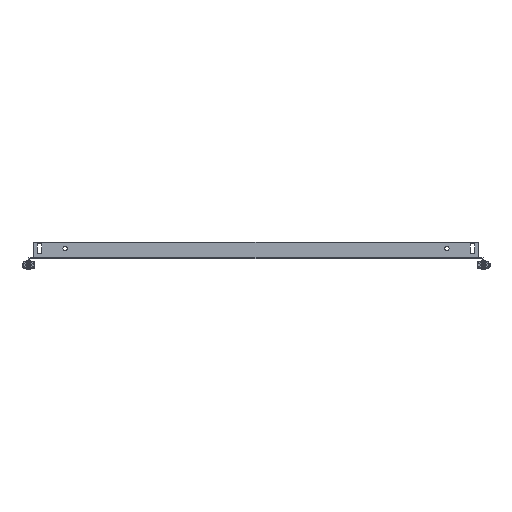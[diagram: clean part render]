
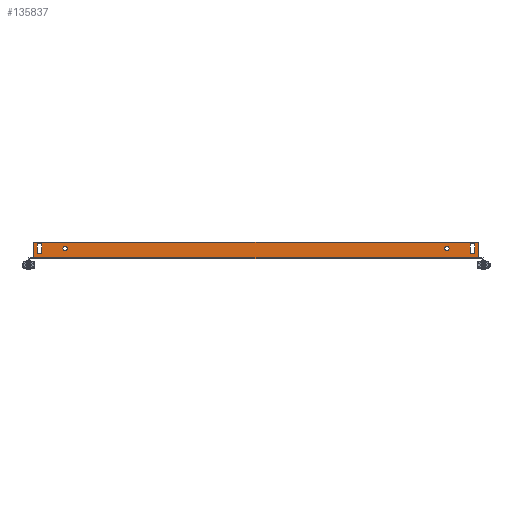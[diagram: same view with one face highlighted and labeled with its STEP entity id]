
A CAD part, front view. The second image highlights one B-rep face of the part: STEP entity #135837.
In plain terms, the highlighted planar face has unit normal (0, -1, 0).
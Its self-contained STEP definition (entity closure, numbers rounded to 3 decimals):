
#124078 = VERTEX_POINT('',#124079);
#124079 = CARTESIAN_POINT('',(342.,-384.5,0.));
#124085 = EDGE_CURVE('',#124086,#124078,#124088,.T.);
#124086 = VERTEX_POINT('',#124087);
#124087 = CARTESIAN_POINT('',(-342.,-384.5,0.));
#124088 = LINE('',#124089,#124090);
#124089 = CARTESIAN_POINT('',(-342.,-384.5,0.));
#124090 = VECTOR('',#124091,1.);
#124091 = DIRECTION('',(1.,-0.,-0.));
#135716 = VERTEX_POINT('',#135717);
#135717 = CARTESIAN_POINT('',(-342.,-384.5,2.6));
#135732 = EDGE_CURVE('',#135716,#124086,#135733,.T.);
#135733 = LINE('',#135734,#135735);
#135734 = CARTESIAN_POINT('',(-342.,-384.5,2.6));
#135735 = VECTOR('',#135736,1.);
#135736 = DIRECTION('',(0.,0.,-1.));
#135756 = VERTEX_POINT('',#135757);
#135757 = CARTESIAN_POINT('',(342.,-384.5,2.6));
#135763 = EDGE_CURVE('',#135756,#124078,#135764,.T.);
#135764 = LINE('',#135765,#135766);
#135765 = CARTESIAN_POINT('',(342.,-384.5,2.));
#135766 = VECTOR('',#135767,1.);
#135767 = DIRECTION('',(-0.,0.,-1.));
#135789 = VERTEX_POINT('',#135790);
#135790 = CARTESIAN_POINT('',(342.,-384.5,26.));
#135796 = EDGE_CURVE('',#135756,#135789,#135797,.T.);
#135797 = LINE('',#135798,#135799);
#135798 = CARTESIAN_POINT('',(342.,-384.5,26.));
#135799 = VECTOR('',#135800,1.);
#135800 = DIRECTION('',(-0.,0.,1.));
#135811 = EDGE_CURVE('',#135812,#135716,#135814,.T.);
#135812 = VERTEX_POINT('',#135813);
#135813 = CARTESIAN_POINT('',(-342.,-384.5,26.));
#135814 = LINE('',#135815,#135816);
#135815 = CARTESIAN_POINT('',(-342.,-384.5,2.));
#135816 = VECTOR('',#135817,1.);
#135817 = DIRECTION('',(-0.,0.,-1.));
#135837 = ADVANCED_FACE('',(#135838,#135872,#135883,#135894,#135928),
  #135941,.F.);
#135838 = FACE_BOUND('',#135839,.T.);
#135839 = EDGE_LOOP('',(#135840,#135850,#135858,#135866));
#135840 = ORIENTED_EDGE('',*,*,#135841,.F.);
#135841 = EDGE_CURVE('',#135842,#135844,#135846,.T.);
#135842 = VERTEX_POINT('',#135843);
#135843 = CARTESIAN_POINT('',(336.5,-384.5,9.));
#135844 = VERTEX_POINT('',#135845);
#135845 = CARTESIAN_POINT('',(336.5,-384.5,23.));
#135846 = LINE('',#135847,#135848);
#135847 = CARTESIAN_POINT('',(336.5,-384.5,23.));
#135848 = VECTOR('',#135849,1.);
#135849 = DIRECTION('',(-0.,-0.,1.));
#135850 = ORIENTED_EDGE('',*,*,#135851,.F.);
#135851 = EDGE_CURVE('',#135852,#135842,#135854,.T.);
#135852 = VERTEX_POINT('',#135853);
#135853 = CARTESIAN_POINT('',(329.5,-384.5,9.));
#135854 = LINE('',#135855,#135856);
#135855 = CARTESIAN_POINT('',(336.5,-384.5,9.));
#135856 = VECTOR('',#135857,1.);
#135857 = DIRECTION('',(1.,-0.,-0.));
#135858 = ORIENTED_EDGE('',*,*,#135859,.F.);
#135859 = EDGE_CURVE('',#135860,#135852,#135862,.T.);
#135860 = VERTEX_POINT('',#135861);
#135861 = CARTESIAN_POINT('',(329.5,-384.5,23.));
#135862 = LINE('',#135863,#135864);
#135863 = CARTESIAN_POINT('',(329.5,-384.5,9.));
#135864 = VECTOR('',#135865,1.);
#135865 = DIRECTION('',(0.,-0.,-1.));
#135866 = ORIENTED_EDGE('',*,*,#135867,.F.);
#135867 = EDGE_CURVE('',#135844,#135860,#135868,.T.);
#135868 = LINE('',#135869,#135870);
#135869 = CARTESIAN_POINT('',(329.5,-384.5,23.));
#135870 = VECTOR('',#135871,1.);
#135871 = DIRECTION('',(-1.,-0.,-0.));
#135872 = FACE_BOUND('',#135873,.T.);
#135873 = EDGE_LOOP('',(#135874));
#135874 = ORIENTED_EDGE('',*,*,#135875,.F.);
#135875 = EDGE_CURVE('',#135876,#135876,#135878,.T.);
#135876 = VERTEX_POINT('',#135877);
#135877 = CARTESIAN_POINT('',(293.5,-384.5,19.5));
#135878 = CIRCLE('',#135879,3.5);
#135879 = AXIS2_PLACEMENT_3D('',#135880,#135881,#135882);
#135880 = CARTESIAN_POINT('',(293.5,-384.5,16.));
#135881 = DIRECTION('',(0.,-1.,0.));
#135882 = DIRECTION('',(0.,0.,1.));
#135883 = FACE_BOUND('',#135884,.T.);
#135884 = EDGE_LOOP('',(#135885));
#135885 = ORIENTED_EDGE('',*,*,#135886,.F.);
#135886 = EDGE_CURVE('',#135887,#135887,#135889,.T.);
#135887 = VERTEX_POINT('',#135888);
#135888 = CARTESIAN_POINT('',(-293.5,-384.5,12.5));
#135889 = CIRCLE('',#135890,3.5);
#135890 = AXIS2_PLACEMENT_3D('',#135891,#135892,#135893);
#135891 = CARTESIAN_POINT('',(-293.5,-384.5,16.));
#135892 = DIRECTION('',(0.,-1.,0.));
#135893 = DIRECTION('',(0.,0.,-1.));
#135894 = FACE_BOUND('',#135895,.T.);
#135895 = EDGE_LOOP('',(#135896,#135906,#135914,#135922));
#135896 = ORIENTED_EDGE('',*,*,#135897,.F.);
#135897 = EDGE_CURVE('',#135898,#135900,#135902,.T.);
#135898 = VERTEX_POINT('',#135899);
#135899 = CARTESIAN_POINT('',(-336.5,-384.5,23.));
#135900 = VERTEX_POINT('',#135901);
#135901 = CARTESIAN_POINT('',(-336.5,-384.5,9.));
#135902 = LINE('',#135903,#135904);
#135903 = CARTESIAN_POINT('',(-336.5,-384.5,9.));
#135904 = VECTOR('',#135905,1.);
#135905 = DIRECTION('',(-0.,-0.,-1.));
#135906 = ORIENTED_EDGE('',*,*,#135907,.F.);
#135907 = EDGE_CURVE('',#135908,#135898,#135910,.T.);
#135908 = VERTEX_POINT('',#135909);
#135909 = CARTESIAN_POINT('',(-329.5,-384.5,23.));
#135910 = LINE('',#135911,#135912);
#135911 = CARTESIAN_POINT('',(-336.5,-384.5,23.));
#135912 = VECTOR('',#135913,1.);
#135913 = DIRECTION('',(-1.,-0.,-0.));
#135914 = ORIENTED_EDGE('',*,*,#135915,.F.);
#135915 = EDGE_CURVE('',#135916,#135908,#135918,.T.);
#135916 = VERTEX_POINT('',#135917);
#135917 = CARTESIAN_POINT('',(-329.5,-384.5,9.));
#135918 = LINE('',#135919,#135920);
#135919 = CARTESIAN_POINT('',(-329.5,-384.5,23.));
#135920 = VECTOR('',#135921,1.);
#135921 = DIRECTION('',(-0.,-0.,1.));
#135922 = ORIENTED_EDGE('',*,*,#135923,.F.);
#135923 = EDGE_CURVE('',#135900,#135916,#135924,.T.);
#135924 = LINE('',#135925,#135926);
#135925 = CARTESIAN_POINT('',(-329.5,-384.5,9.));
#135926 = VECTOR('',#135927,1.);
#135927 = DIRECTION('',(1.,-0.,-0.));
#135928 = FACE_BOUND('',#135929,.T.);
#135929 = EDGE_LOOP('',(#135930,#135931,#135932,#135933,#135934,#135935)
  );
#135930 = ORIENTED_EDGE('',*,*,#135811,.T.);
#135931 = ORIENTED_EDGE('',*,*,#135732,.T.);
#135932 = ORIENTED_EDGE('',*,*,#124085,.T.);
#135933 = ORIENTED_EDGE('',*,*,#135763,.F.);
#135934 = ORIENTED_EDGE('',*,*,#135796,.T.);
#135935 = ORIENTED_EDGE('',*,*,#135936,.T.);
#135936 = EDGE_CURVE('',#135789,#135812,#135937,.T.);
#135937 = LINE('',#135938,#135939);
#135938 = CARTESIAN_POINT('',(-342.,-384.5,26.));
#135939 = VECTOR('',#135940,1.);
#135940 = DIRECTION('',(-1.,-0.,-0.));
#135941 = PLANE('',#135942);
#135942 = AXIS2_PLACEMENT_3D('',#135943,#135944,#135945);
#135943 = CARTESIAN_POINT('',(342.,-384.5,2.));
#135944 = DIRECTION('',(-0.,1.,0.));
#135945 = DIRECTION('',(0.,0.,1.));
